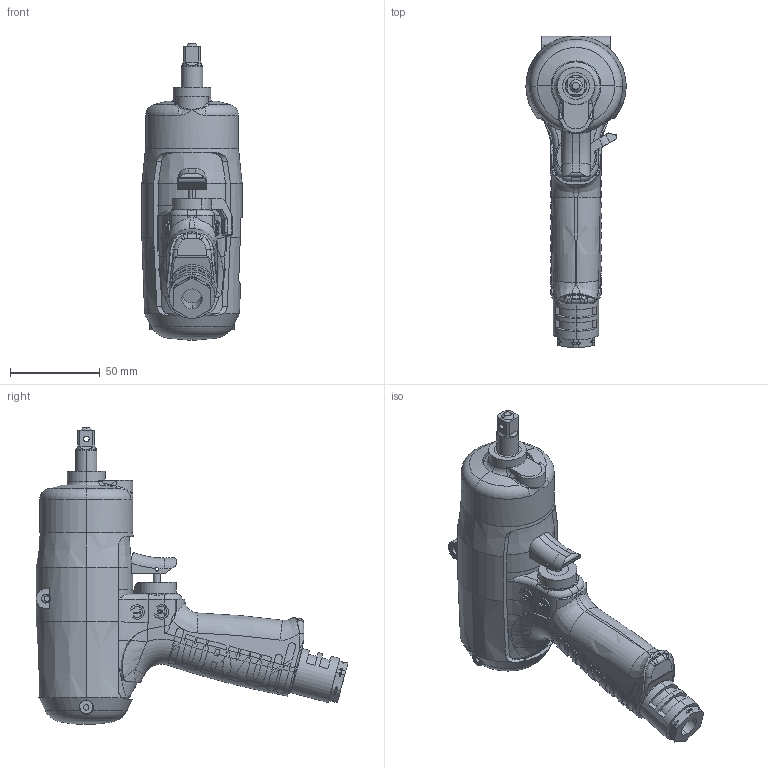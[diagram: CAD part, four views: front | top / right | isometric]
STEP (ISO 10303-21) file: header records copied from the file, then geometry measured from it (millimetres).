
FILE_DESCRIPTION (( 'STEP AP203' ), '1' );
FILE_NAME ('UL80.STEP', '2015-07-03T06:40:35', ( '' ), ( '' ), 'SwSTEP 2.0', 'SolidWorks 2014', '' );
FILE_SCHEMA (( 'CONFIG_CONTROL_DESIGN' ));
Length unit declared in the file: millimetre
Products named in the file (8): 1170252_UL80; 1471072_UL80; 4802128_UL80; 1178402_UL80; 1478422_UL80; UL80; 1173192_UL80; 1154393_UL80
Assembly tree (7 placements, depth 2):
  UL80
    1173192_UL80
    1154393_UL80
    1170252_UL80
    1471072_UL80
    4802128_UL80
    1178402_UL80
    1478422_UL80
Bounding box: 56 x 174.18 x 165.8 mm (x, y, z)
Volume: 396666.3 mm3; surface area: 104482.2 mm2
Topology: 7 solids, 7 shells, 1336 faces, 3705 edges, 2392 vertices
Faces by surface type: plane 744, cylinder 248, bspline 209, torus 87, cone 42, sphere 6
Entity records: 58132 total; most frequent: CARTESIAN_POINT 26422, ORIENTED_EDGE 7382, DIRECTION 5203, EDGE_CURVE 3691, VERTEX_POINT 2392, AXIS2_PLACEMENT_3D 1801, VECTOR 1601, LINE 1601
